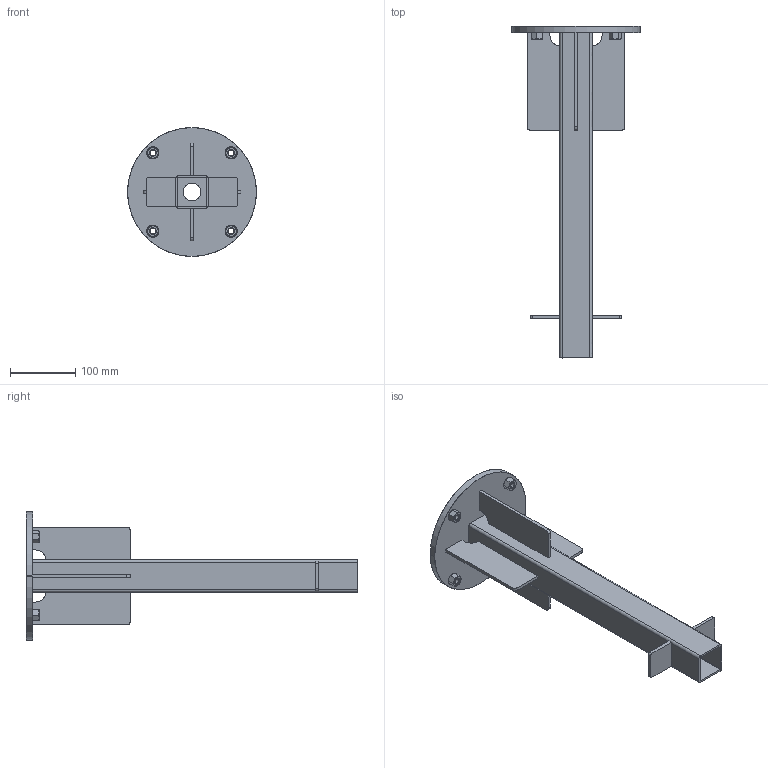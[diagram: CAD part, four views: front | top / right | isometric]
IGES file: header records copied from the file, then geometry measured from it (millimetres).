
Start section: SolidWorks IGES file using analytic representation for surfaces
Global section: file name: C:\Users\James\Desktop\PDM Temp\1.1.1\In Ground Anchor.IGS; native system: SolidWorks 2017; preprocessor: SolidWorks 2017; author: Peter; date: 200624.144208; units: millimetre
Bounding box: 198 x 510 x 198 mm (x, y, z)
Surface area: 335406.6 mm2 (no closed solid volume)
Topology: 0 solids, 0 shells, 198 faces, 2728 edges, 2728 vertices
Faces by surface type: revolution 112, bspline 86
